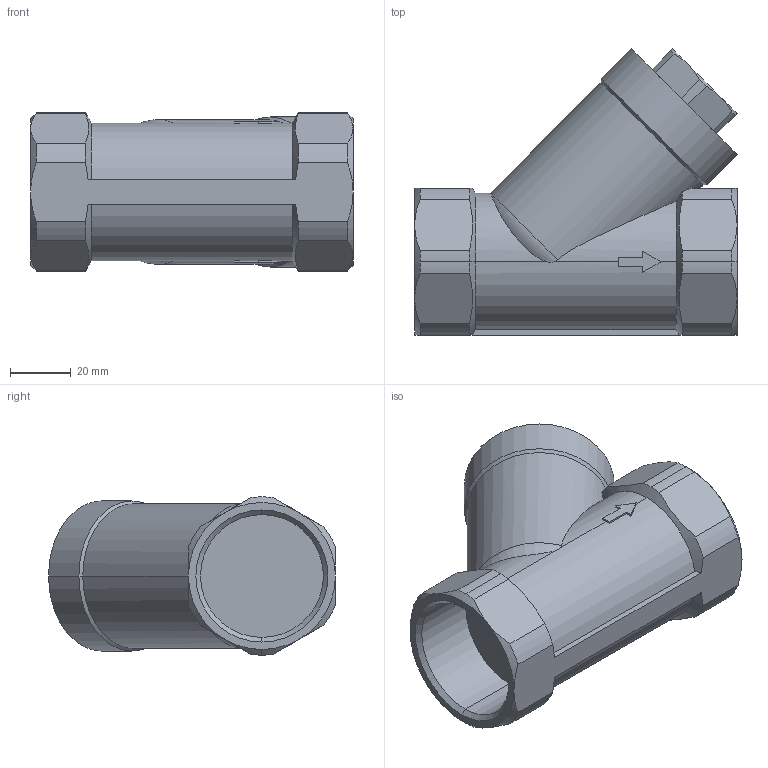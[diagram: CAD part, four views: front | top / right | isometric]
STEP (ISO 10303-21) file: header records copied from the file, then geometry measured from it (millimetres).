
FILE_DESCRIPTION (( 'STEP AP203' ), '1' );
FILE_NAME ('Y6.623032FNC.STEP', '2018-12-14T08:08:36', ( 'dell2' ), ( 'Microsoft' ), 'SwSTEP 2.0', 'SolidWorks 2017', '' );
FILE_SCHEMA (( 'CONFIG_CONTROL_DESIGN' ));
Length unit declared in the file: millimetre
Products named in the file (1): Y6.623032FNC
Bounding box: 106.09 x 94.26 x 52 mm (x, y, z)
Volume: 222655.8 mm3; surface area: 33475.1 mm2
Topology: 1 solids, 1 shells, 108 faces, 274 edges, 171 vertices
Faces by surface type: plane 41, cylinder 33, cone 32, torus 2
Entity records: 3694 total; most frequent: CARTESIAN_POINT 1083, ORIENTED_EDGE 548, DIRECTION 519, EDGE_CURVE 274, AXIS2_PLACEMENT_3D 207, VERTEX_POINT 171, EDGE_LOOP 111, FACE_OUTER_BOUND 108
